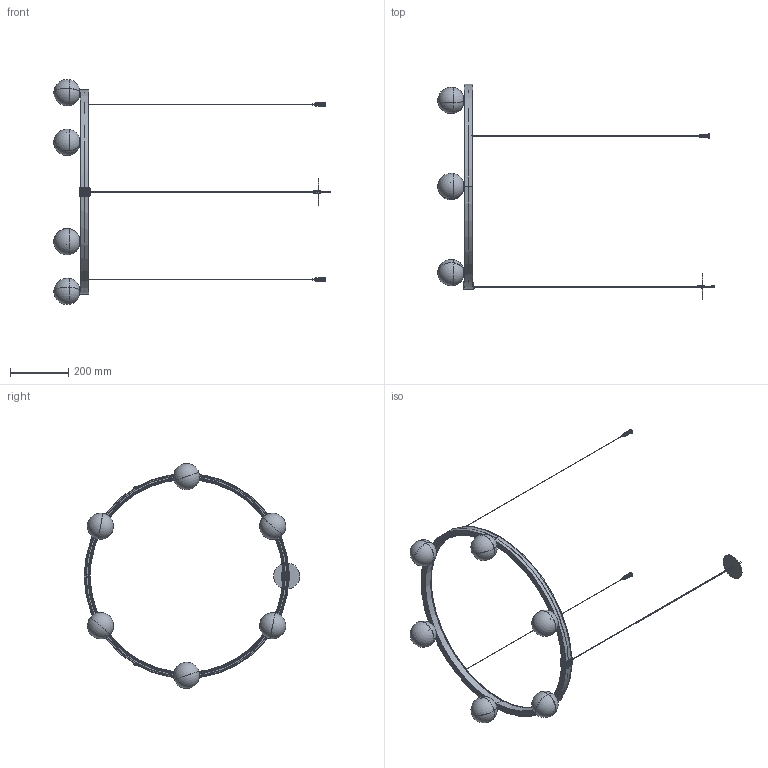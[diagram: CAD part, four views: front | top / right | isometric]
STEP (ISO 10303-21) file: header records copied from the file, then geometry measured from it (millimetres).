
FILE_DESCRIPTION (( 'STEP AP214' ), '1' );
FILE_NAME ('10-24CJ03 - PLANET.STEP', '2024-05-29T07:24:42', ( '' ), ( '' ), 'SwSTEP 2.0', 'SolidWorks 2024', '' );
FILE_SCHEMA (( 'AUTOMOTIVE_DESIGN' ));
Length unit declared in the file: millimetre
Products named in the file (1): 10-24CJ03 - PLANET
Bounding box: 951.43 x 741.8 x 774.02 mm (x, y, z)
Volume: 877154.2 mm3; surface area: 905114.2 mm2
Topology: 14 solids, 16 shells, 1499 faces, 3689 edges, 2235 vertices
Faces by surface type: plane 642, cone 356, cylinder 292, torus 119, sphere 60, bspline 30
Entity records: 60414 total; most frequent: CARTESIAN_POINT 25915, ORIENTED_EDGE 7258, DIRECTION 7199, EDGE_CURVE 3629, AXIS2_PLACEMENT_3D 2644, VERTEX_POINT 2199, VECTOR 1911, LINE 1911
